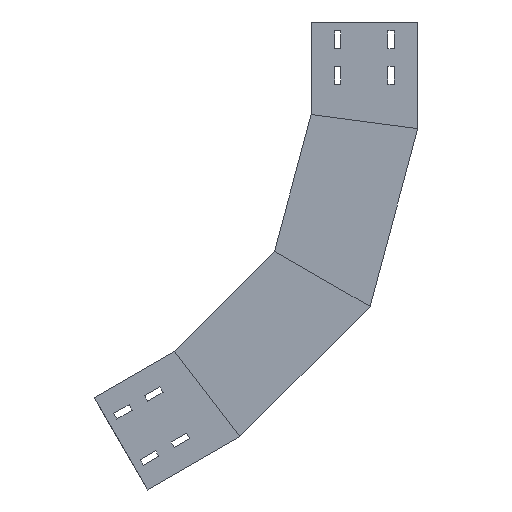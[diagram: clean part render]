
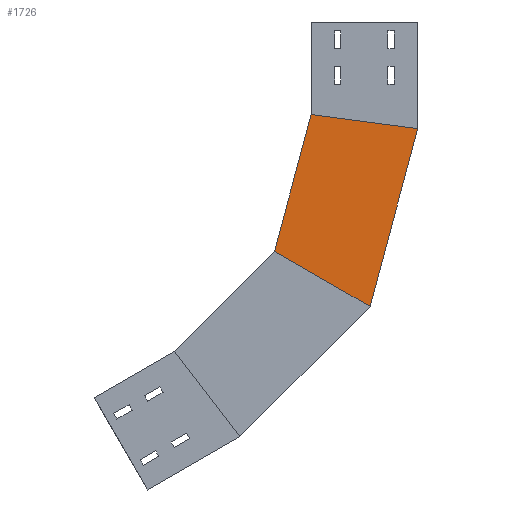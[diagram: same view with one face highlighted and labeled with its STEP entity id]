
A CAD part, left-side view. The second image highlights one B-rep face of the part: STEP entity #1726.
In plain terms, the highlighted planar face has unit normal (-1, 0, 0) as drawn and (1, 0, 0) by its records, which use the part's own axes.
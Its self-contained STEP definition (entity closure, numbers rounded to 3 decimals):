
#42 = CARTESIAN_POINT ( 'NONE',  ( 0., 342.277, -463.286 ) ) ;
#54 = CARTESIAN_POINT ( 'NONE',  ( 0., 250.175, -583.315 ) ) ;
#62 = DIRECTION ( 'NONE',  ( 0., -0.866, -0.5 ) ) ;
#116 = CARTESIAN_POINT ( 'NONE',  ( 0., 173.1, -294.109 ) ) ;
#154 = VERTEX_POINT ( 'NONE', #1729 ) ;
#309 = EDGE_CURVE ( 'NONE', #154, #600, #554, .T. ) ;
#354 = DIRECTION ( 'NONE',  ( -1., 0., 0. ) ) ;
#475 = DIRECTION ( 'NONE',  ( 0., -0.609, -0.793 ) ) ;
#482 = VECTOR ( 'NONE', #62, 1000. ) ;
#543 = DIRECTION ( 'NONE',  ( 0., 0., 1. ) ) ;
#554 = LINE ( 'NONE', #1784, #482 ) ;
#600 = VERTEX_POINT ( 'NONE', #884 ) ;
#642 = CARTESIAN_POINT ( 'NONE',  ( 0., 270.755, -556.495 ) ) ;
#704 = VECTOR ( 'NONE', #475, 1000. ) ;
#867 = AXIS2_PLACEMENT_3D ( 'NONE', #1909, #354, #543 ) ;
#884 = CARTESIAN_POINT ( 'NONE',  ( 0., 67.034, -400.175 ) ) ;
#1033 = ORIENTED_EDGE ( 'NONE', *, *, #1254, .F. ) ;
#1125 = LINE ( 'NONE', #642, #704 ) ;
#1240 = EDGE_CURVE ( 'NONE', #600, #1428, #1685, .T. ) ;
#1254 = EDGE_CURVE ( 'NONE', #1431, #1428, #1125, .T. ) ;
#1289 = CARTESIAN_POINT ( 'NONE',  ( 0., 67.034, -400.175 ) ) ;
#1353 = VECTOR ( 'NONE', #2183, 1000. ) ;
#1397 = FACE_OUTER_BOUND ( 'NONE', #1606, .T. ) ;
#1428 = VERTEX_POINT ( 'NONE', #54 ) ;
#1431 = VERTEX_POINT ( 'NONE', #42 ) ;
#1496 = DIRECTION ( 'NONE',  ( 0., 0.707, -0.707 ) ) ;
#1606 = EDGE_LOOP ( 'NONE', ( #1817, #1907, #2120, #1033 ) ) ;
#1674 = LINE ( 'NONE', #116, #2023 ) ;
#1685 = LINE ( 'NONE', #1289, #1353 ) ;
#1726 = ADVANCED_FACE ( 'NONE', ( #1397 ), #2088, .F. ) ;
#1729 = CARTESIAN_POINT ( 'NONE',  ( 0., 201.52, -322.529 ) ) ;
#1784 = CARTESIAN_POINT ( 'NONE',  ( 0., 125.087, -366.658 ) ) ;
#1817 = ORIENTED_EDGE ( 'NONE', *, *, #2032, .F. ) ;
#1907 = ORIENTED_EDGE ( 'NONE', *, *, #309, .T. ) ;
#1909 = CARTESIAN_POINT ( 'NONE',  ( 0., 67.034, -400.175 ) ) ;
#2023 = VECTOR ( 'NONE', #1496, 1000. ) ;
#2032 = EDGE_CURVE ( 'NONE', #154, #1431, #1674, .T. ) ;
#2088 = PLANE ( 'NONE',  #867 ) ;
#2120 = ORIENTED_EDGE ( 'NONE', *, *, #1240, .T. ) ;
#2183 = DIRECTION ( 'NONE',  ( 0., 0.707, -0.707 ) ) ;
